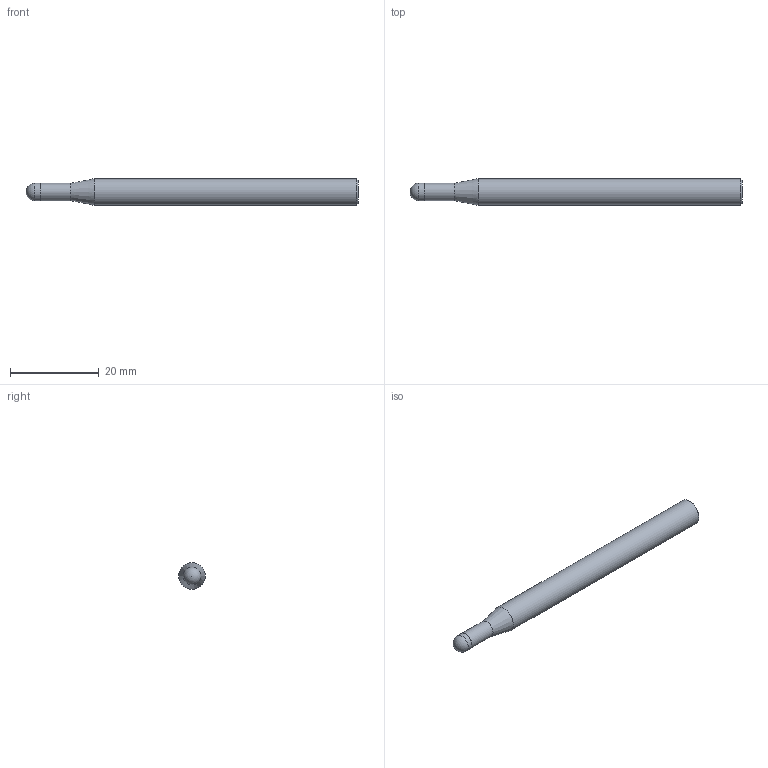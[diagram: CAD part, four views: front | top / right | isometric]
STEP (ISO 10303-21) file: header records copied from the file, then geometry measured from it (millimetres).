
FILE_DESCRIPTION(/* description */ (''),/* implementation_level */ '2;1');
FILE_NAME(/* name */ 'HSXB2040 0675.stp',/* time_stamp */ '2026-08-01T17:12:56+08:00',/* author */ (''),/* organization */ (''),/* preprocessor_version */ 'ST-DEVELOPER v16',/* originating_system */ 'SIEMENS PLM Software NX 10.0',/* authorisation */ '');
FILE_SCHEMA (('CONFIG_CONTROL_DESIGN'));
Length unit declared in the file: millimetre
Products named in the file (1): HSXB2040 0675_dxf
Bounding box: 75 x 6 x 6 mm (x, y, z)
Volume: 1902.9 mm3; surface area: 1381.9 mm2
Topology: 2 solids, 2 shells, 9 faces, 15 edges, 9 vertices
Faces by surface type: plane 3, cylinder 3, cone 2, sphere 1
Full cylindrical faces by diameter (mm): 3.9 x1, 4 x1, 6 x1
Entity records: 246 total; most frequent: DIRECTION 34, CARTESIAN_POINT 24, AXIS2_PLACEMENT_3D 17, EDGE_LOOP 14, ORIENTED_EDGE 14, FACE_BOUND 10, ADVANCED_FACE 9, PERSON_AND_ORGANIZATION 7
